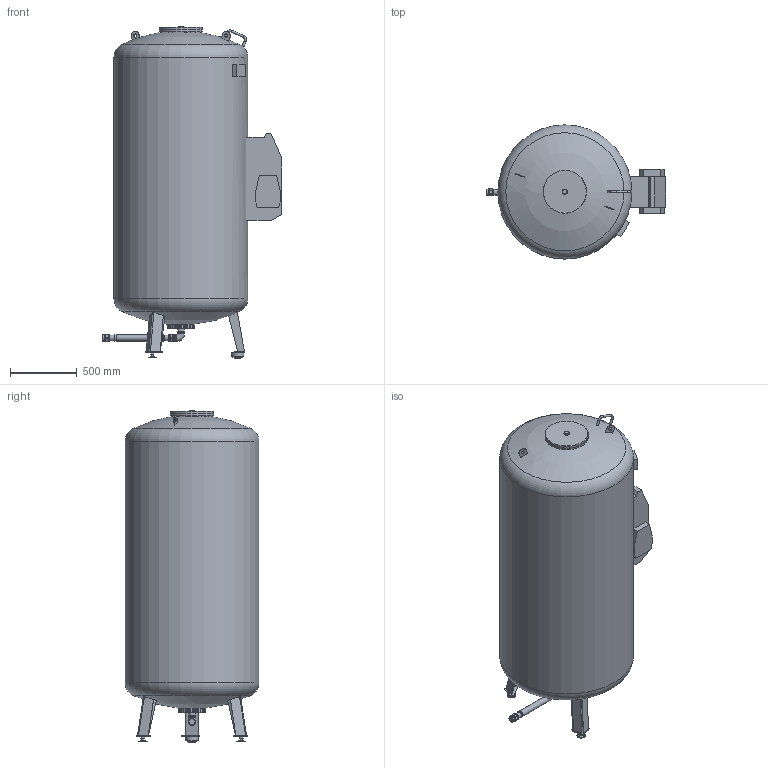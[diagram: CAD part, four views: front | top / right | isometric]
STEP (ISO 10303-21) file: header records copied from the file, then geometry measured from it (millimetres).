
FILE_DESCRIPTION(/* description */ (''),/* implementation_level */ '2;1');
FILE_NAME(/* name */ '\\dataserver\data\Flamco\3D-Modellen\Inventor\Flamcomat\2021_Flamcomat MK-U G4\flamcomat_mk-u_g4_1600_6.stp',/* time_stamp */ '2021-12-15T08:24:27+01:00',/* author */ ('kasius'),/* organization */ (''),/* preprocessor_version */ 'ST-DEVELOPER v17',/* originating_system */ 'Autodesk Inventor 2018',/* authorisation */ '');
FILE_SCHEMA (('AUTOMOTIVE_DESIGN { 1 0 10303 214 3 1 1 }'));
Length unit declared in the file: millimetre
Products named in the file (1): flamcomat_mk-u_g4_1600_6
Bounding box: 1338.24 x 1000 x 2481.03 mm (x, y, z)
Volume: 1664486652 mm3; surface area: 8842638.7 mm2
Topology: 5 solids, 5 shells, 323 faces, 848 edges, 570 vertices
Faces by surface type: plane 178, cylinder 72, cone 65, torus 5, sphere 2, bspline 1
Full cylindrical faces by diameter (mm): 15 x3, 16 x2, 20 x2, 24 x2, 33 x2, 38.75 x1, 41.7 x2, 43 x2, 46.1 x1, 47.5 x4, 48 x2, 48.3 x1, 53.6 x2, 55 x2, 65 x2, 90 x1, 162 x1, 198 x2, 279.133 x1, 322 x2, 1000 x1
Entity records: 10437 total; most frequent: CARTESIAN_POINT 1981, DIRECTION 1783, ORIENTED_EDGE 1708, EDGE_CURVE 854, AXIS2_PLACEMENT_3D 673, VERTEX_POINT 570, LINE 437, VECTOR 437
